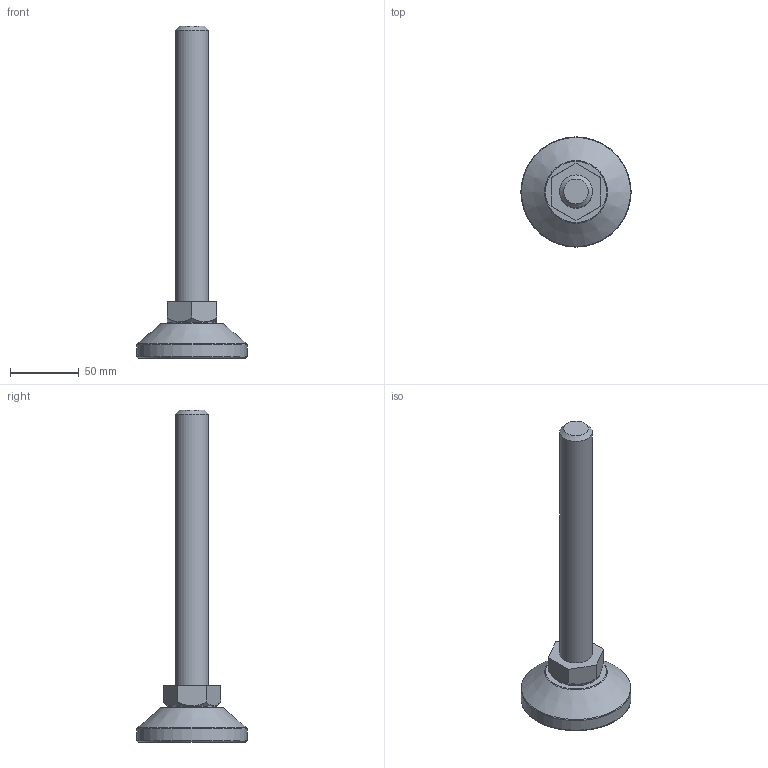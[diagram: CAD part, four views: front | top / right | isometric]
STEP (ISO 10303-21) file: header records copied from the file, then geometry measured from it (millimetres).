
FILE_DESCRIPTION(/* description */ (''),/* implementation_level */ '2;1');
FILE_NAME(/* name */ 'D:\조절자\F\F-M24-200L.stp',/* time_stamp */ '2016-03-14T14:30:06+09:00',/* author */ ('GS-DT-1-001'),/* organization */ (''),/* preprocessor_version */ 'ST-DEVELOPER v15.6',/* originating_system */ 'Autodesk Inventor LT ',/* authorisation */ '');
FILE_SCHEMA (('AUTOMOTIVE_DESIGN { 1 0 10303 214 3 1 1 }'));
Length unit declared in the file: millimetre
Products named in the file (1): F-M24-200L
Bounding box: 80 x 80 x 241 mm (x, y, z)
Volume: 174711.2 mm3; surface area: 38801.4 mm2
Topology: 4 solids, 4 shells, 46 faces, 84 edges, 52 vertices
Faces by surface type: plane 20, cylinder 13, cone 9, torus 4
Full cylindrical faces by diameter (mm): 7.153 x1, 8 x1, 8.2 x1, 8.3 x1, 16 x1, 24 x1, 36 x1, 50 x1, 57 x1, 61 x1, 71 x1, 75 x1, 80 x1
Entity records: 995 total; most frequent: DIRECTION 180, CARTESIAN_POINT 163, ORIENTED_EDGE 110, AXIS2_PLACEMENT_3D 84, EDGE_LOOP 82, EDGE_CURVE 55, VERTEX_POINT 49, FACE_OUTER_BOUND 46
